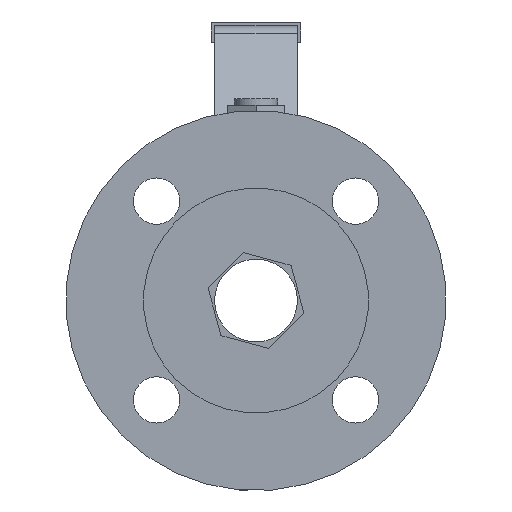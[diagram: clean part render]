
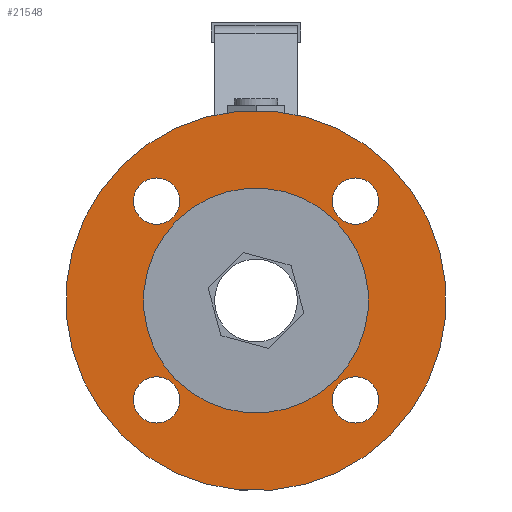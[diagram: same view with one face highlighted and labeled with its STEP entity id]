
A CAD part, left-side view. The second image highlights one B-rep face of the part: STEP entity #21548.
In plain terms, the highlighted planar face has unit normal (-1, 0, 0).
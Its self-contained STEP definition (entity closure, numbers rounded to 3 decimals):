
#21548=ADVANCED_FACE('',(#38347,#38349,#38351,#38353,#38355,#38357),#38359,.F.);
#38347=FACE_BOUND('',#38348,.T.);
#38348=EDGE_LOOP('',(#52244));
#38349=FACE_BOUND('',#38350,.T.);
#38350=EDGE_LOOP('',(#52245));
#38351=FACE_BOUND('',#38352,.T.);
#38352=EDGE_LOOP('',(#52246));
#38353=FACE_BOUND('',#38354,.T.);
#38354=EDGE_LOOP('',(#52247));
#38355=FACE_BOUND('',#38356,.T.);
#38356=EDGE_LOOP('',(#52248));
#38357=FACE_BOUND('',#38358,.T.);
#38358=EDGE_LOOP('',(#52249));
#38359=PLANE('',#38360);
#38360=AXIS2_PLACEMENT_3D('',#38361,#38362,#38363);
#38361=CARTESIAN_POINT('',(7450.266,1212.343,33.45));
#38362=DIRECTION('',(1.,0.,0.));
#38363=DIRECTION('',(0.,0.,-1.));
#52244=ORIENTED_EDGE('',*,*,#59195,.T.);
#52245=ORIENTED_EDGE('',*,*,#59071,.T.);
#52246=ORIENTED_EDGE('',*,*,#59075,.T.);
#52247=ORIENTED_EDGE('',*,*,#59079,.T.);
#52248=ORIENTED_EDGE('',*,*,#59067,.T.);
#52249=ORIENTED_EDGE('',*,*,#59196,.F.);
#59067=EDGE_CURVE('',#70530,#70530,#70531,.T.);
#59071=EDGE_CURVE('',#70538,#70538,#70539,.T.);
#59075=EDGE_CURVE('',#70546,#70546,#70547,.T.);
#59079=EDGE_CURVE('',#70554,#70554,#70555,.T.);
#59195=EDGE_CURVE('',#70748,#70748,#70749,.T.);
#59196=EDGE_CURVE('',#70750,#70750,#70751,.T.);
#70530=VERTEX_POINT('',#95788);
#70531=CIRCLE('',#95789,7.);
#70538=VERTEX_POINT('',#95808);
#70539=CIRCLE('',#95809,7.);
#70546=VERTEX_POINT('',#95828);
#70547=CIRCLE('',#95829,7.);
#70554=VERTEX_POINT('',#95848);
#70555=CIRCLE('',#95849,7.);
#70748=VERTEX_POINT('',#96904);
#70749=CIRCLE('',#96905,57.5);
#70750=VERTEX_POINT('',#96909);
#70751=CIRCLE('',#96910,34.);
#95788=CARTESIAN_POINT('',(7450.266,1145.239,-26.654));
#95789=AXIS2_PLACEMENT_3D('',#95790,#95791,#95792);
#95790=CARTESIAN_POINT('',(7450.266,1152.239,-26.654));
#95791=DIRECTION('',(1.,0.,0.));
#95792=DIRECTION('',(0.,-1.,0.));
#95808=CARTESIAN_POINT('',(7450.266,1205.343,33.45));
#95809=AXIS2_PLACEMENT_3D('',#95810,#95811,#95812);
#95810=CARTESIAN_POINT('',(7450.266,1212.343,33.45));
#95811=DIRECTION('',(1.,0.,0.));
#95812=DIRECTION('',(0.,-1.,0.));
#95828=CARTESIAN_POINT('',(7450.266,1205.343,-26.654));
#95829=AXIS2_PLACEMENT_3D('',#95830,#95831,#95832);
#95830=CARTESIAN_POINT('',(7450.266,1212.343,-26.654));
#95831=DIRECTION('',(1.,0.,0.));
#95832=DIRECTION('',(0.,-1.,0.));
#95848=CARTESIAN_POINT('',(7450.266,1145.239,33.45));
#95849=AXIS2_PLACEMENT_3D('',#95850,#95851,#95852);
#95850=CARTESIAN_POINT('',(7450.266,1152.239,33.45));
#95851=DIRECTION('',(1.,0.,0.));
#95852=DIRECTION('',(0.,-1.,0.));
#96904=CARTESIAN_POINT('',(7450.266,1141.633,44.056));
#96905=AXIS2_PLACEMENT_3D('',#96906,#96907,#96908);
#96906=CARTESIAN_POINT('',(7450.266,1182.291,3.398));
#96907=DIRECTION('',(-1.,0.,0.));
#96908=DIRECTION('',(0.,0.707,-0.707));
#96909=CARTESIAN_POINT('',(7450.266,1158.25,27.439));
#96910=AXIS2_PLACEMENT_3D('',#96911,#96912,#96913);
#96911=CARTESIAN_POINT('',(7450.266,1182.291,3.398));
#96912=DIRECTION('',(-1.,0.,0.));
#96913=DIRECTION('',(0.,0.707,-0.707));
